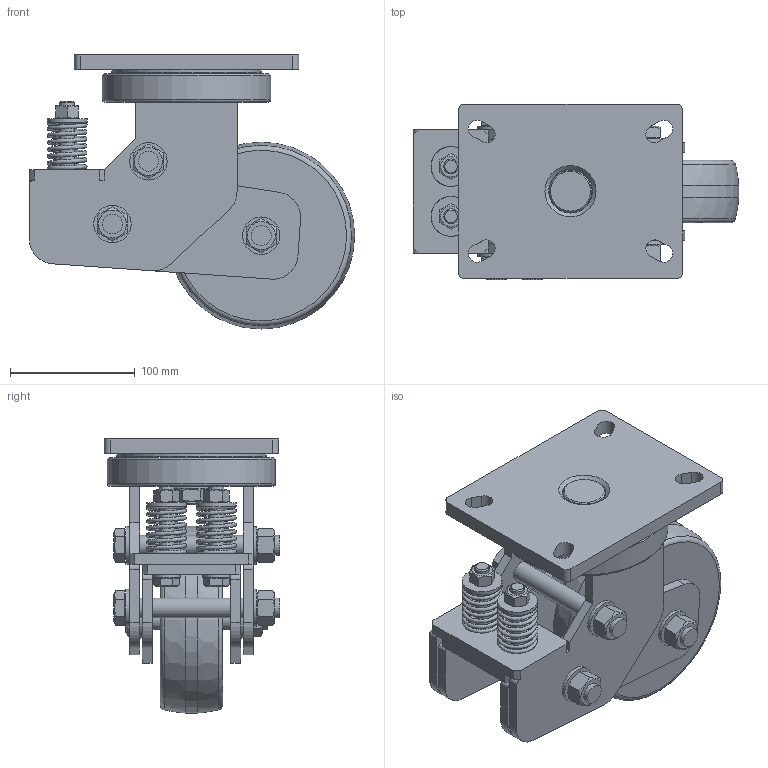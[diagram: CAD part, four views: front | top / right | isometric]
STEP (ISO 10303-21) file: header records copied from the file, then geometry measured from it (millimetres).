
FILE_DESCRIPTION(/* description */ (''),/* implementation_level */ '2;1');
FILE_NAME(/* name */ '45F04_6_F.stp',/* time_stamp */ '2022-10-07T11:28:11+08:00',/* author */ (''),/* organization */ (''),/* preprocessor_version */ 'ST-DEVELOPER v14',/* originating_system */ 'SIEMENS PLM Software NX 8.0',/* authorisation */ '');
FILE_SCHEMA (('AUTOMOTIVE_DESIGN { 1 0 10303 214 3 1 1 1 }'));
Length unit declared in the file: millimetre
Products named in the file (1): 45F04_6_F
Bounding box: 261.1 x 140.95 x 220 mm (x, y, z)
Volume: 2177522 mm3; surface area: 361671.9 mm2
Topology: 1 solids, 1 shells, 630 faces, 1582 edges, 1032 vertices
Faces by surface type: plane 417, cylinder 113, sphere 30, cone 29, bspline 26, torus 15
Full cylindrical faces by diameter (mm): 12 x4, 13 x4, 16 x7, 16.3 x8, 17 x8, 18 x1, 20 x1, 22 x2, 26 x1, 30 x6, 32 x2, 34 x1, 35 x1, 36 x1, 47 x1, 90 x1, 120 x1, 135 x1, 150 x1
Entity records: 24732 total; most frequent: CARTESIAN_POINT 10683, ORIENTED_EDGE 2828, DIRECTION 2662, EDGE_CURVE 1414, AXIS2_PLACEMENT_3D 1013, VERTEX_POINT 990, EDGE_LOOP 918, LINE 636
